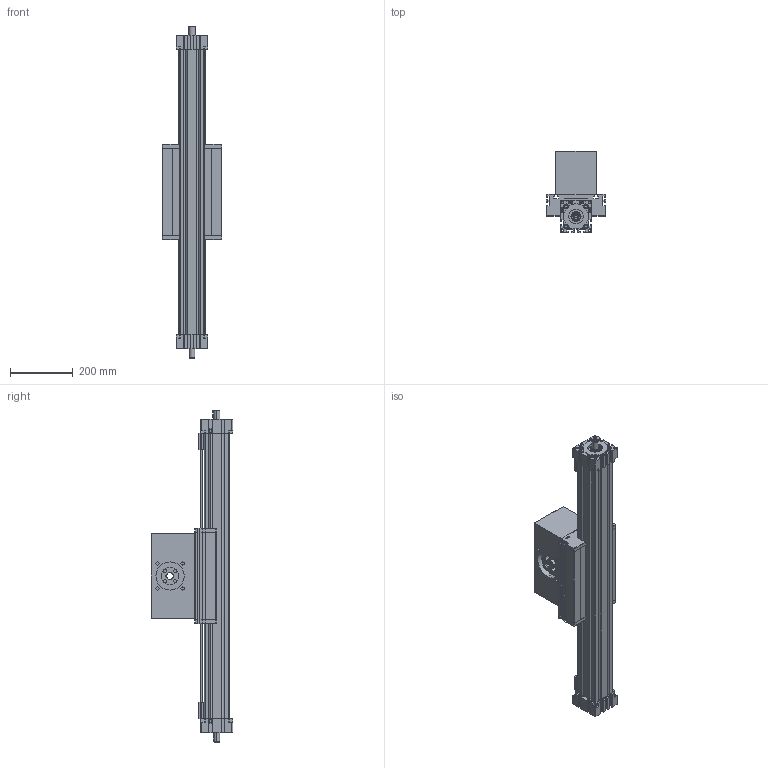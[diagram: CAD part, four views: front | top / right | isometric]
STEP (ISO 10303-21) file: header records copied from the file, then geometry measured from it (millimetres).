
FILE_DESCRIPTION (( 'STEP AP214' ), '1' );
FILE_NAME ('ELSD80S HD.STEP', '2022-12-07T12:49:31', ( '' ), ( '' ), 'SwSTEP 2.0', 'SolidWorks 2020', '' );
FILE_SCHEMA (( 'AUTOMOTIVE_DESIGN' ));
Length unit declared in the file: millimetre
Products named in the file (6): timing belt reverse unit^ELSD80S HD_coupling claw pos.1; ELSD80S HD; load block^ELSD80S HD_standard; profile^ELSD80S HD_2x guide rods; carriage^ELSD80S HD_carriage version 0; drive block^ELSD80S HD_standard
Assembly tree (5 placements, depth 2):
  ELSD80S HD
    profile^ELSD80S HD_2x guide rods
    carriage^ELSD80S HD_carriage version 0
    timing belt reverse unit^ELSD80S HD_coupling claw pos.1
    load block^ELSD80S HD_standard
    drive block^ELSD80S HD_standard
Bounding box: 190 x 260.4 x 1060 mm (x, y, z)
Volume: 11983750.5 mm3; surface area: 1354928.3 mm2
Topology: 14 solids, 14 shells, 1092 faces, 2995 edges, 1970 vertices
Faces by surface type: plane 790, cylinder 244, cone 46, torus 8, sphere 4
Entity records: 36839 total; most frequent: CARTESIAN_POINT 6247, ORIENTED_EDGE 5982, DIRECTION 5723, EDGE_CURVE 2991, VECTOR 2407, LINE 2407, VERTEX_POINT 1970, AXIS2_PLACEMENT_3D 1658
